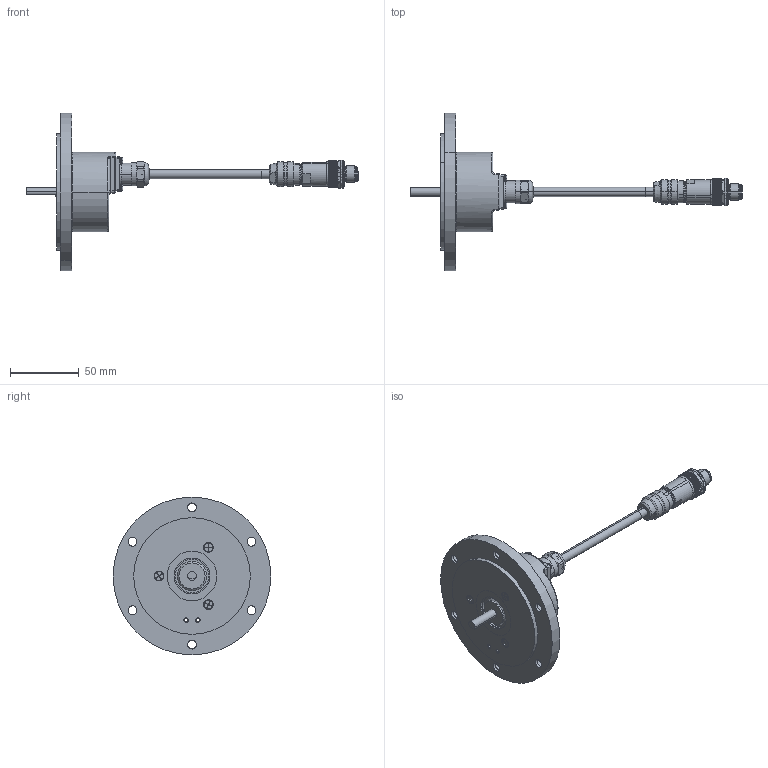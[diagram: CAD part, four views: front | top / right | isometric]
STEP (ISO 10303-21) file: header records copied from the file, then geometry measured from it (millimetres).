
FILE_DESCRIPTION (( 'STEP AP203' ), '1' );
FILE_NAME ('K58I.OXX.XXXXX.XS1E51B.6XA12.XXXX.step', '2025-12-08T16:10:06', ( '' ), ( '' ), 'SwSTEP 2.0', 'SolidWorks 2021', '' );
FILE_SCHEMA (( 'CONFIG_CONTROL_DESIGN' ));
Products named in the file (1): K58I.OXX.XXXXX.XS1E51B.6XA12.XXXX
Bounding box: 241.9 x 115 x 115 mm (x, y, z)
Volume: 231518.6 mm3; surface area: 64836.4 mm2
Topology: 17 solids, 17 shells, 1555 faces, 3790 edges, 2307 vertices
Faces by surface type: plane 560, cylinder 553, cone 311, bspline 56, torus 41, sphere 34
Entity records: 48466 total; most frequent: CARTESIAN_POINT 12982, ORIENTED_EDGE 7486, DIRECTION 7353, EDGE_CURVE 3743, AXIS2_PLACEMENT_3D 2934, VERTEX_POINT 2289, EDGE_LOOP 1656, FACE_OUTER_BOUND 1555
